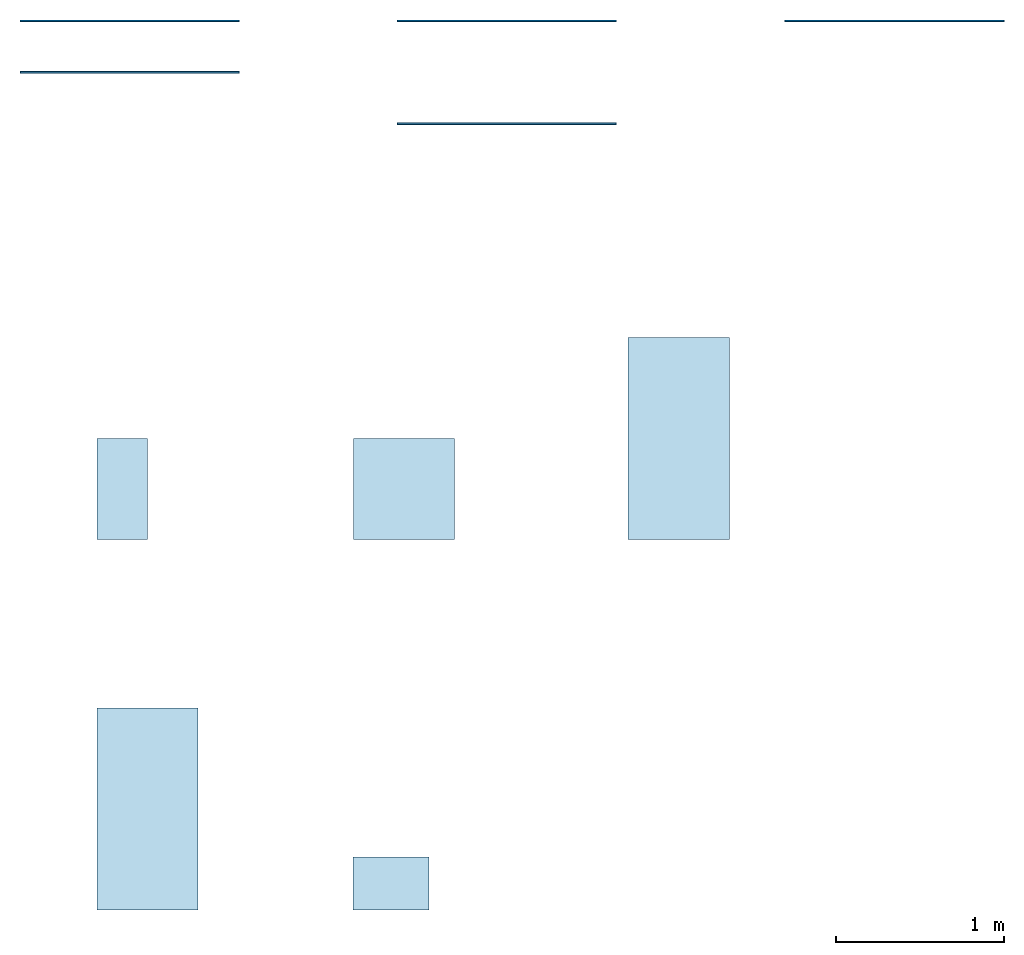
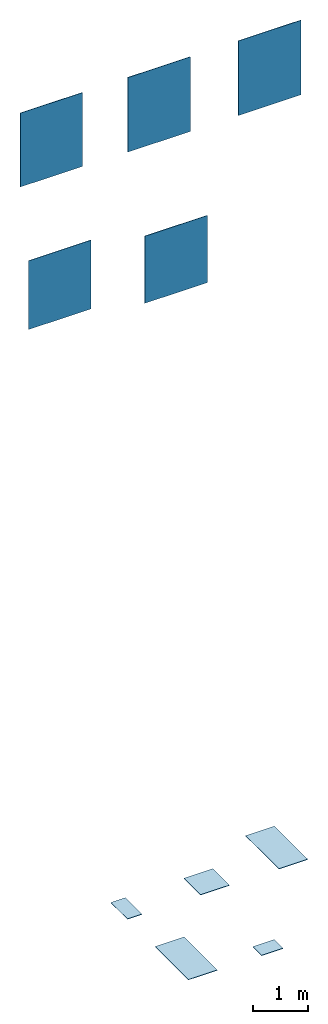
# One storey: 5 slabs, 5 walls.
"""IFC2X3 building model written with IfcOpenShell, lengths in millimetres."""

from ifc_helpers import new_model, entity, si_unit, converted_unit, derived_unit, direction, frame, frame_2d, origin, origin_2d_with_axis, place, context, subcontext, project, spatial, rectangle, extrude, material, layer, layer_set, layer_usage, type_object, element, save


model = new_model("IFC2X3")

# Units and contexts
model_context = context("Model", 3, precision=0.01, world=origin(), true_north=direction((6.12303176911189e-17, 1.0)))
body_context = subcontext(model_context, "Body", "Model", "MODEL_VIEW")
ifc_project = project(units=[si_unit("LENGTHUNIT", "METRE", prefix="MILLI"), si_unit("AREAUNIT", "SQUARE_METRE"), si_unit("VOLUMEUNIT", "CUBIC_METRE"), converted_unit("PLANEANGLEUNIT", "DEGREE", entity("IfcRatioMeasure", 0.0174532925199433), si_unit("PLANEANGLEUNIT", "RADIAN"), dimensions=[0, 0, 0, 0, 0, 0, 0]), si_unit("MASSUNIT", "GRAM", prefix="KILO"), derived_unit("MASSDENSITYUNIT", [(si_unit("MASSUNIT", "GRAM", prefix="KILO"), 1), (si_unit("LENGTHUNIT", "METRE"), -3)]), derived_unit("MOMENTOFINERTIAUNIT", [(si_unit("LENGTHUNIT", "METRE"), 4)]), si_unit("TIMEUNIT", "SECOND"), si_unit("FREQUENCYUNIT", "HERTZ"), si_unit("THERMODYNAMICTEMPERATUREUNIT", "DEGREE_CELSIUS"), derived_unit("THERMALTRANSMITTANCEUNIT", [(si_unit("MASSUNIT", "GRAM", prefix="KILO"), 1), (si_unit("THERMODYNAMICTEMPERATUREUNIT", "KELVIN"), -1), (si_unit("TIMEUNIT", "SECOND"), -3)]), derived_unit("VOLUMETRICFLOWRATEUNIT", [(si_unit("LENGTHUNIT", "METRE"), 3), (si_unit("TIMEUNIT", "SECOND"), -1)]), si_unit("ELECTRICCURRENTUNIT", "AMPERE"), si_unit("ELECTRICVOLTAGEUNIT", "VOLT"), si_unit("POWERUNIT", "WATT"), si_unit("FORCEUNIT", "NEWTON", prefix="KILO"), si_unit("ILLUMINANCEUNIT", "LUX"), si_unit("LUMINOUSFLUXUNIT", "LUMEN"), si_unit("LUMINOUSINTENSITYUNIT", "CANDELA"), derived_unit("USERDEFINED", [(si_unit("MASSUNIT", "GRAM", prefix="KILO"), -1), (si_unit("LENGTHUNIT", "METRE"), -2), (si_unit("TIMEUNIT", "SECOND"), 3), (si_unit("LUMINOUSFLUXUNIT", "LUMEN"), 1)]), derived_unit("LINEARVELOCITYUNIT", [(si_unit("LENGTHUNIT", "METRE"), 1), (si_unit("TIMEUNIT", "SECOND"), -1)]), si_unit("PRESSUREUNIT", "PASCAL"), derived_unit("USERDEFINED", [(si_unit("LENGTHUNIT", "METRE"), -2), (si_unit("MASSUNIT", "GRAM", prefix="KILO"), 1), (si_unit("TIMEUNIT", "SECOND"), -2)]), derived_unit("LINEARFORCEUNIT", [(si_unit("MASSUNIT", "GRAM", prefix="KILO"), 1), (si_unit("LENGTHUNIT", "METRE"), 1), (si_unit("TIMEUNIT", "SECOND"), -2), (si_unit("LENGTHUNIT", "METRE"), -1)]), derived_unit("PLANARFORCEUNIT", [(si_unit("MASSUNIT", "GRAM", prefix="KILO"), 1), (si_unit("LENGTHUNIT", "METRE"), 1), (si_unit("TIMEUNIT", "SECOND"), -2), (si_unit("LENGTHUNIT", "METRE"), -2)])], contexts=[model_context])

# Site, building, storey
site_placement = place(None, origin())
site = spatial("IfcSite", under=ifc_project, at=site_placement, Name="Default", CompositionType="ELEMENT")
building_placement = place(site_placement, origin())
building = spatial("IfcBuilding", under=site, at=building_placement, CompositionType="ELEMENT")
storey_placement = place(building_placement, origin())
storey = spatial("IfcBuildingStorey", under=building, at=storey_placement, Name="Level 0", CompositionType="ELEMENT", Elevation=0.0)

# Slabs
ifc_material_1 = material(Name="Blended-White-60x120 OA57")
ifc_layer_1 = layer(ifc_material_1, 9.0)
ifc_material_2 = material(Name="<Unnamed>")
ifc_layer_2 = layer(ifc_material_2, 1.0)
ifc_layer_set_1 = layer_set([ifc_layer_1, ifc_layer_2], Name="Floor:Floor_Tiles_Refin-Blended-White-60x120 OA57")
ifc_layer_usage_1 = layer_usage(ifc_layer_set_1, "AXIS3", "POSITIVE", 0.0)
slab_type_1 = type_object("IfcSlabType", Name="Floor:Floor_Tiles_Refin-Blended-White-60x120 OA57", PredefinedType="FLOOR", material=ifc_layer_set_1)
slab_1_placement = place(storey_placement, origin())
element("IfcSlab", 1, at=slab_1_placement, inside=storey, type_object=slab_type_1, material=ifc_layer_usage_1, Name="Floor:Floor_Tiles_Refin-Blended-White-60x120 OA57", ObjectType="Floor:Floor_Tiles_Refin-Blended-White-60x120 OA57", PredefinedType="FLOOR", context=body_context, shape_type="SweptSolid", body=[
    extrude(rectangle(XDim=1200.0, YDim=600.0, at=frame_2d((0.0, 1.08002495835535e-12), x_axis=(1.0, 0.0))), frame((9827.18614186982, 5659.46237428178, 0.0), z_axis=(0.0, 0.0, -1.0), x_axis=(0.0, 1.0, 0.0)), (0.0, 0.0, 1.0), 10.0),
])
ifc_material_3 = material(Name="Blended-White-30x60 OA92")
ifc_layer_3 = layer(ifc_material_3, 9.0)
ifc_layer_4 = layer(ifc_material_2, 1.0)
ifc_layer_set_2 = layer_set([ifc_layer_3, ifc_layer_4], Name="Floor:Floor_Tiles_Refin-Blended-White-30x60 OA92")
ifc_layer_usage_2 = layer_usage(ifc_layer_set_2, "AXIS3", "POSITIVE", 0.0)
slab_type_2 = type_object("IfcSlabType", Name="Floor:Floor_Tiles_Refin-Blended-White-30x60 OA92", PredefinedType="FLOOR", material=ifc_layer_set_2)
slab_2_placement = place(storey_placement, origin())
element("IfcSlab", 2, at=slab_2_placement, inside=storey, type_object=slab_type_2, material=ifc_layer_usage_2, Name="Floor:Floor_Tiles_Refin-Blended-White-30x60 OA92", ObjectType="Floor:Floor_Tiles_Refin-Blended-White-30x60 OA92", PredefinedType="FLOOR", context=body_context, shape_type="SweptSolid", body=[
    extrude(rectangle(XDim=600.0, YDim=300.0, at=frame_2d((0.0, -5.40012479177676e-13), x_axis=(1.0, 0.0))), frame((6524.37520617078, 5359.4623742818, 0.0), z_axis=(0.0, 0.0, -1.0), x_axis=(0.0, 1.0, 0.0)), (0.0, 0.0, 1.0), 10.0),
])
ifc_material_4 = material(Name="Blended-White-GRIP-60x120 OB68")
ifc_layer_5 = layer(ifc_material_4, 9.0)
ifc_layer_6 = layer(ifc_material_2, 1.0)
ifc_layer_set_3 = layer_set([ifc_layer_5, ifc_layer_6], Name="Floor:Floor_Tiles_Refin-Blended-White-GRIP-60x120 OB68")
ifc_layer_usage_3 = layer_usage(ifc_layer_set_3, "AXIS3", "POSITIVE", 0.0)
slab_type_3 = type_object("IfcSlabType", Name="Floor:Floor_Tiles_Refin-Blended-White-GRIP-60x120 OB68", PredefinedType="FLOOR", material=ifc_layer_set_3)
slab_3_placement = place(storey_placement, origin())
element("IfcSlab", 3, at=slab_3_placement, inside=storey, type_object=slab_type_3, material=ifc_layer_usage_3, Name="Floor:Floor_Tiles_Refin-Blended-White-GRIP-60x120 OB68", ObjectType="Floor:Floor_Tiles_Refin-Blended-White-GRIP-60x120 OB68", PredefinedType="FLOOR", context=body_context, shape_type="SweptSolid", body=[
    extrude(rectangle(XDim=1200.0, YDim=600.0, at=frame_2d((0.0, 1.08002495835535e-12), x_axis=(1.0, 0.0))), frame((6674.37520617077, 3459.4623742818, 0.0), z_axis=(0.0, 0.0, -1.0), x_axis=(0.0, 1.0, 0.0)), (0.0, 0.0, 1.0), 10.0),
])
ifc_material_5 = material(Name="Blended-White-60x60 OA87")
ifc_layer_7 = layer(ifc_material_5, 9.0)
ifc_layer_8 = layer(ifc_material_2, 1.0)
ifc_layer_set_4 = layer_set([ifc_layer_7, ifc_layer_8], Name="Floor:Floor_Tiles_Refin-Blended-White-60x60 OA87")
ifc_layer_usage_4 = layer_usage(ifc_layer_set_4, "AXIS3", "POSITIVE", 0.0)
slab_type_4 = type_object("IfcSlabType", Name="Floor:Floor_Tiles_Refin-Blended-White-60x60 OA87", PredefinedType="FLOOR", material=ifc_layer_set_4)
slab_4_placement = place(storey_placement, origin())
element("IfcSlab", 4, at=slab_4_placement, inside=storey, type_object=slab_type_4, material=ifc_layer_usage_4, Name="Floor:Floor_Tiles_Refin-Blended-White-60x60 OA87", ObjectType="Floor:Floor_Tiles_Refin-Blended-White-60x60 OA87", PredefinedType="FLOOR", context=body_context, shape_type="SweptSolid", body=[
    extrude(rectangle(XDim=600.0, YDim=600.0, at=origin_2d_with_axis()), frame((8197.39240545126, 5358.41920639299, 0.0), z_axis=(0.0, 0.0, -1.0), x_axis=(0.0, 1.0, 0.0)), (0.0, 0.0, 1.0), 10.0),
])
ifc_material_6 = material(Name="Blended-White-MURETTO-3D-31.5x45 NX95")
ifc_layer_9 = layer(ifc_material_6, 10.0)
ifc_layer_10 = layer(ifc_material_2, 1.0)
ifc_layer_set_5 = layer_set([ifc_layer_9, ifc_layer_10], Name="Floor:Floor_Tiles_Refin-Blended-White-MURETTO-3D-31.5x45 NX95")
ifc_layer_usage_5 = layer_usage(ifc_layer_set_5, "AXIS3", "POSITIVE", 0.0)
slab_type_5 = type_object("IfcSlabType", Name="Floor:Floor_Tiles_Refin-Blended-White-MURETTO-3D-31.5x45 NX95", PredefinedType="FLOOR", material=ifc_layer_set_5)
slab_5_placement = place(storey_placement, origin())
element("IfcSlab", 5, at=slab_5_placement, inside=storey, type_object=slab_type_5, material=ifc_layer_usage_5, Name="Floor:Floor_Tiles_Refin-Blended-White-MURETTO-3D-31.5x45 NX95", ObjectType="Floor:Floor_Tiles_Refin-Blended-White-MURETTO-3D-31.5x45 NX95", PredefinedType="FLOOR", context=body_context, shape_type="SweptSolid", body=[
    extrude(rectangle(XDim=315.0, YDim=449.999999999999, at=origin_2d_with_axis()), frame((8119.37520617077, 3016.9623742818, 0.0), z_axis=(0.0, 0.0, -1.0), x_axis=(0.0, 1.0, 0.0)), (0.0, 0.0, 1.0), 11.0),
])

# Walls
ifc_layer_11 = layer(ifc_material_2, 1.0)
ifc_layer_12 = layer(ifc_material_5, 9.0)
ifc_layer_set_6 = layer_set([ifc_layer_11, ifc_layer_12], Name="Basic Wall:Wall_Tiles_Refin-Blended-White-60x60 OA87")
ifc_layer_usage_6 = layer_usage(ifc_layer_set_6, "AXIS2", "NEGATIVE", 5.0)
wall_type_1 = type_object("IfcWallType", Name="Basic Wall:Wall_Tiles_Refin-Blended-White-60x60 OA87", PredefinedType="STANDARD", material=ifc_layer_set_6)
wall_1_placement = place(storey_placement, frame((8157.37520617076, 8137.38386313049, 14387.6770443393)))
element("IfcWallStandardCase", 6, at=wall_1_placement, inside=storey, type_object=wall_type_1, material=ifc_layer_usage_6, Name="Basic Wall:Wall_Tiles_Refin-Blended-White-60x60 OA87", ObjectType="Basic Wall:Wall_Tiles_Refin-Blended-White-60x60 OA87", context=body_context, shape_type="SweptSolid", body=[
    extrude(rectangle(XDim=1300.0, YDim=9.99999999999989, at=frame_2d((650.0, 7.63833440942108e-14), x_axis=(-1.0, 0.0))), origin(), (0.0, 0.0, 1.0), 1641.74173522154),
])
ifc_layer_13 = layer(ifc_material_2, 1.0)
ifc_layer_14 = layer(ifc_material_1, 9.0)
ifc_layer_set_7 = layer_set([ifc_layer_13, ifc_layer_14], Name="Basic Wall:Wall_Tiles_Refin-Blended-White-60x120 OA57")
ifc_layer_usage_7 = layer_usage(ifc_layer_set_7, "AXIS2", "NEGATIVE", 5.0)
wall_type_2 = type_object("IfcWallType", Name="Basic Wall:Wall_Tiles_Refin-Blended-White-60x120 OA57", PredefinedType="STANDARD", material=ifc_layer_set_7)
wall_2_placement = place(storey_placement, frame((10457.3752061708, 8137.38386313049, 14387.6770443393)))
element("IfcWallStandardCase", 7, at=wall_2_placement, inside=storey, type_object=wall_type_2, material=ifc_layer_usage_7, Name="Basic Wall:Wall_Tiles_Refin-Blended-White-60x120 OA57", ObjectType="Basic Wall:Wall_Tiles_Refin-Blended-White-60x120 OA57", context=body_context, shape_type="SweptSolid", body=[
    extrude(rectangle(XDim=1300.0, YDim=9.99999999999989, at=frame_2d((650.0, 7.63833440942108e-14), x_axis=(-1.0, 0.0))), origin(), (0.0, 0.0, 1.0), 1641.74173522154),
])
ifc_layer_15 = layer(ifc_material_2, 1.0)
ifc_layer_16 = layer(ifc_material_3, 9.0)
ifc_layer_set_8 = layer_set([ifc_layer_15, ifc_layer_16], Name="Basic Wall:Wall_Tiles_Refin-Blended-White-30x60 OA92")
ifc_layer_usage_8 = layer_usage(ifc_layer_set_8, "AXIS2", "NEGATIVE", 5.0)
wall_type_3 = type_object("IfcWallType", Name="Basic Wall:Wall_Tiles_Refin-Blended-White-30x60 OA92", PredefinedType="STANDARD", material=ifc_layer_set_8)
wall_3_placement = place(storey_placement, frame((5917.37520617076, 8137.38386313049, 14403.726734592)))
element("IfcWallStandardCase", 8, at=wall_3_placement, inside=storey, type_object=wall_type_3, material=ifc_layer_usage_8, Name="Basic Wall:Wall_Tiles_Refin-Blended-White-30x60 OA92", ObjectType="Basic Wall:Wall_Tiles_Refin-Blended-White-30x60 OA92", context=body_context, shape_type="SweptSolid", body=[
    extrude(rectangle(XDim=1300.0, YDim=9.99999999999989, at=frame_2d((650.0, 7.63833440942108e-14), x_axis=(-1.0, 0.0))), origin(), (0.0, 0.0, 1.0), 1625.69204496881),
])
ifc_layer_17 = layer(ifc_material_2, 1.0)
ifc_layer_18 = layer(ifc_material_4, 9.0)
ifc_layer_set_9 = layer_set([ifc_layer_17, ifc_layer_18], Name="Basic Wall:Wall_Tiles_Refin-Blended-White-GRIP-60x120 OB68")
ifc_layer_usage_9 = layer_usage(ifc_layer_set_9, "AXIS2", "NEGATIVE", 5.0)
wall_type_4 = type_object("IfcWallType", Name="Basic Wall:Wall_Tiles_Refin-Blended-White-GRIP-60x120 OB68", PredefinedType="STANDARD", material=ifc_layer_set_9)
wall_4_placement = place(storey_placement, frame((5917.37520617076, 7832.38386313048, 11452.5436262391)))
element("IfcWallStandardCase", 9, at=wall_4_placement, inside=storey, type_object=wall_type_4, material=ifc_layer_usage_9, Name="Basic Wall:Wall_Tiles_Refin-Blended-White-GRIP-60x120 OB68", ObjectType="Basic Wall:Wall_Tiles_Refin-Blended-White-GRIP-60x120 OB68", context=body_context, shape_type="SweptSolid", body=[
    extrude(rectangle(XDim=1300.0, YDim=9.99999999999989, at=frame_2d((650.0, 0.0), x_axis=(-1.0, 0.0))), origin(), (0.0, 0.0, 1.0), 1513.19855655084),
])
ifc_layer_19 = layer(ifc_material_2, 1.0)
ifc_layer_20 = layer(ifc_material_6, 10.0)
ifc_layer_set_10 = layer_set([ifc_layer_19, ifc_layer_20], Name="Basic Wall:Wall_Tiles_Refin-Blended-White-MURETTO-3D-31.5x45 NX95")
ifc_layer_usage_10 = layer_usage(ifc_layer_set_10, "AXIS2", "NEGATIVE", 5.5)
wall_type_5 = type_object("IfcWallType", Name="Basic Wall:Wall_Tiles_Refin-Blended-White-MURETTO-3D-31.5x45 NX95", PredefinedType="STANDARD", material=ifc_layer_set_10)
wall_5_placement = place(storey_placement, frame((8157.37520617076, 7527.38386313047, 11430.0146935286)))
element("IfcWallStandardCase", 10, at=wall_5_placement, inside=storey, type_object=wall_type_5, material=ifc_layer_usage_10, Name="Basic Wall:Wall_Tiles_Refin-Blended-White-MURETTO-3D-31.5x45 NX95", ObjectType="Basic Wall:Wall_Tiles_Refin-Blended-White-MURETTO-3D-31.5x45 NX95", context=body_context, shape_type="SweptSolid", body=[
    extrude(rectangle(XDim=1300.0, YDim=10.9999999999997, at=frame_2d((650.0, 0.0), x_axis=(-1.0, 0.0))), origin(), (0.0, 0.0, 1.0), 1477.49876099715),
])

save(model, "model.ifc")
